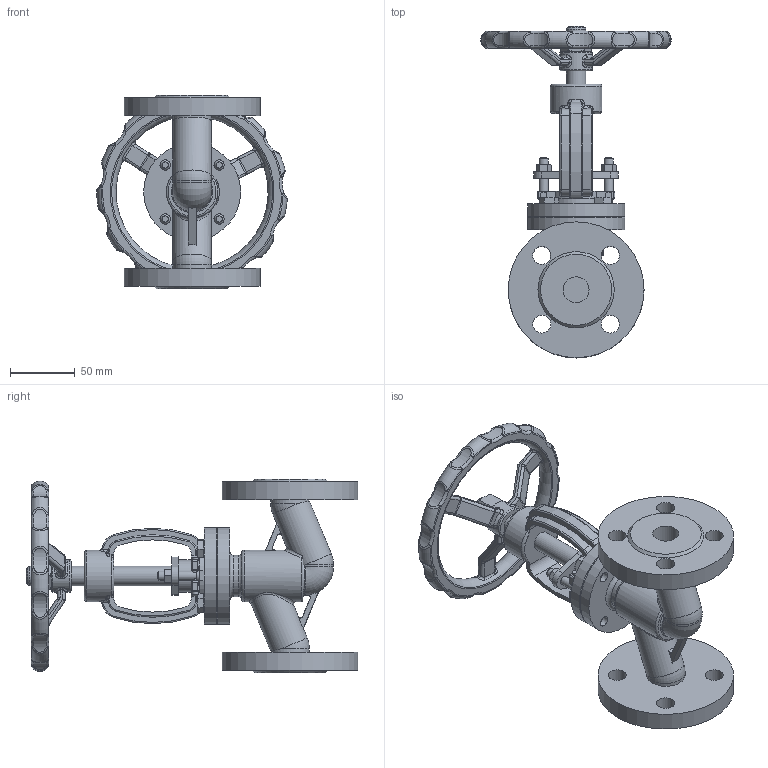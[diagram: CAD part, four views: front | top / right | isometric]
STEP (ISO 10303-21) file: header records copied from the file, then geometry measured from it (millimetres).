
FILE_DESCRIPTION(('STEP AP203'), '1');
FILE_NAME('VSO3131M-F-S 孰囡囗 玎镱痦 DN.ru 捏20 畜16', '2026-04-15T19:42:30', ('R2D2'), (''), 'C3D Converter', 'C3D Toolkit', '');
FILE_SCHEMA(('CONFIG_CONTROL_DESIGN'));
Length unit declared in the file: millimetre
Products named in the file (1): VSO3131M-F-S
Bounding box: 147.33 x 256.6 x 150 mm (x, y, z)
Volume: 643123.8 mm3; surface area: 131292.6 mm2
Topology: 1 solids, 1 shells, 954 faces, 2315 edges, 1388 vertices
Faces by surface type: plane 277, cylinder 202, torus 137, extrusion 122, bspline 81, cone 71, sphere 64
Full cylindrical faces by diameter (mm): 5 x8, 7 x4, 8 x6, 13 x4, 14 x8, 15 x3, 20 x2, 25 x2, 30 x5, 32 x1, 40 x2, 75 x2, 105 x2
Entity records: 63996 total; most frequent: CARTESIAN_POINT 35525, ORIENTED_EDGE 4432, DIRECTION 3923, EDGE_CURVE 2216, AXIS2_PLACEMENT_3D 1555, VERTEX_POINT 1381, EDGE_LOOP 1113, FACE_BOUND 1005
